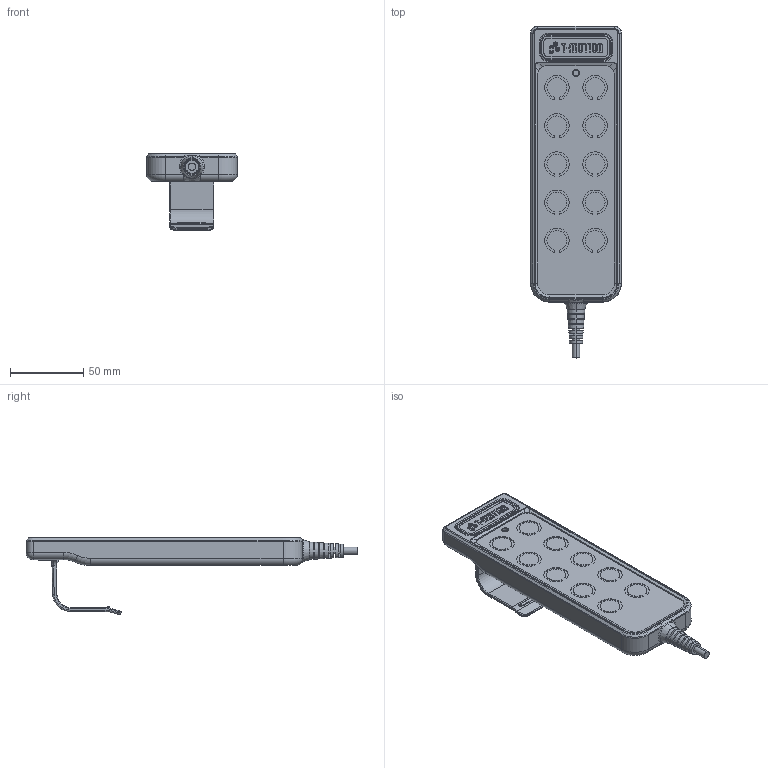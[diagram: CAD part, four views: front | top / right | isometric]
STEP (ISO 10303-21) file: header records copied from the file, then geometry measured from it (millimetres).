
FILE_DESCRIPTION (( 'STEP AP203' ), '1' );
FILE_NAME ('TH2（無安全鎖）.STEP', '2014-01-16T02:57:27', ( 'stanley' ), ( '' ), 'SwSTEP 2.0', 'SolidWorks 2010', '' );
FILE_SCHEMA (( 'CONFIG_CONTROL_DESIGN' ));
Length unit declared in the file: millimetre
Products named in the file (1): TH2（無安全鎖）
Bounding box: 62 x 226 x 52.34 mm (x, y, z)
Volume: 199443.1 mm3; surface area: 40176.2 mm2
Topology: 1 solids, 1 shells, 1651 faces, 4677 edges, 3066 vertices
Faces by surface type: plane 1360, cylinder 184, torus 60, cone 24, bspline 18, sphere 5
Entity records: 55328 total; most frequent: CARTESIAN_POINT 12306, ORIENTED_EDGE 9346, DIRECTION 8320, EDGE_CURVE 4673, VECTOR 4082, LINE 4082, VERTEX_POINT 3064, AXIS2_PLACEMENT_3D 2119
